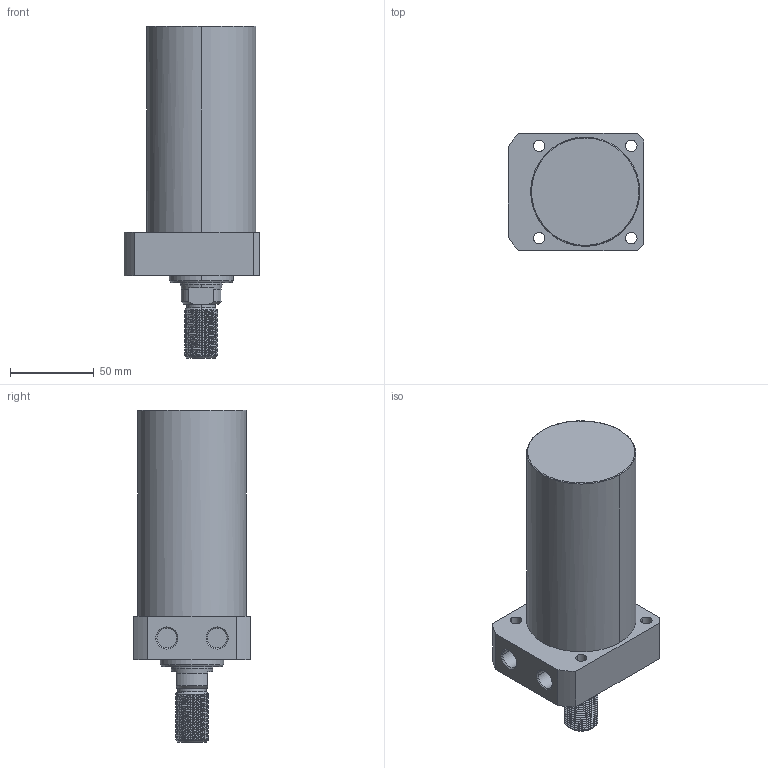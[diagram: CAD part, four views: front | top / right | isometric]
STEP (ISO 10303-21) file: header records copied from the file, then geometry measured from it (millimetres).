
FILE_DESCRIPTION((' '),'2;1');
FILE_NAME( 'TLLR-065CT-090.STEP.stp', '2025-10-24T16:34:59', (' '), ('--- Datakit www.datakit.com---'), ' Datakit CrossCadWare V2024.1 Dec 21 2023', 'Mastercam 2025', ' ');
FILE_SCHEMA(('AUTOMOTIVE_DESIGN { 1 0 10303 214 1 1 1 1 }'));
Length unit declared in the file: millimetre
Products named in the file (1): TLLR-065CT-090
Bounding box: 81 x 70 x 198 mm (x, y, z)
Volume: 564649.2 mm3; surface area: 51688.8 mm2
Topology: 1 solids, 1 shells, 106 faces, 382 edges, 286 vertices
Faces by surface type: cylinder 66, plane 20, cone 16, bspline 2, torus 2
Entity records: 12424 total; most frequent: CARTESIAN_POINT 9166, ORIENTED_EDGE 764, DIRECTION 533, EDGE_CURVE 382, VERTEX_POINT 286, AXIS2_PLACEMENT_3D 215, B_SPLINE_CURVE_WITH_KNOTS 169, EDGE_LOOP 122
